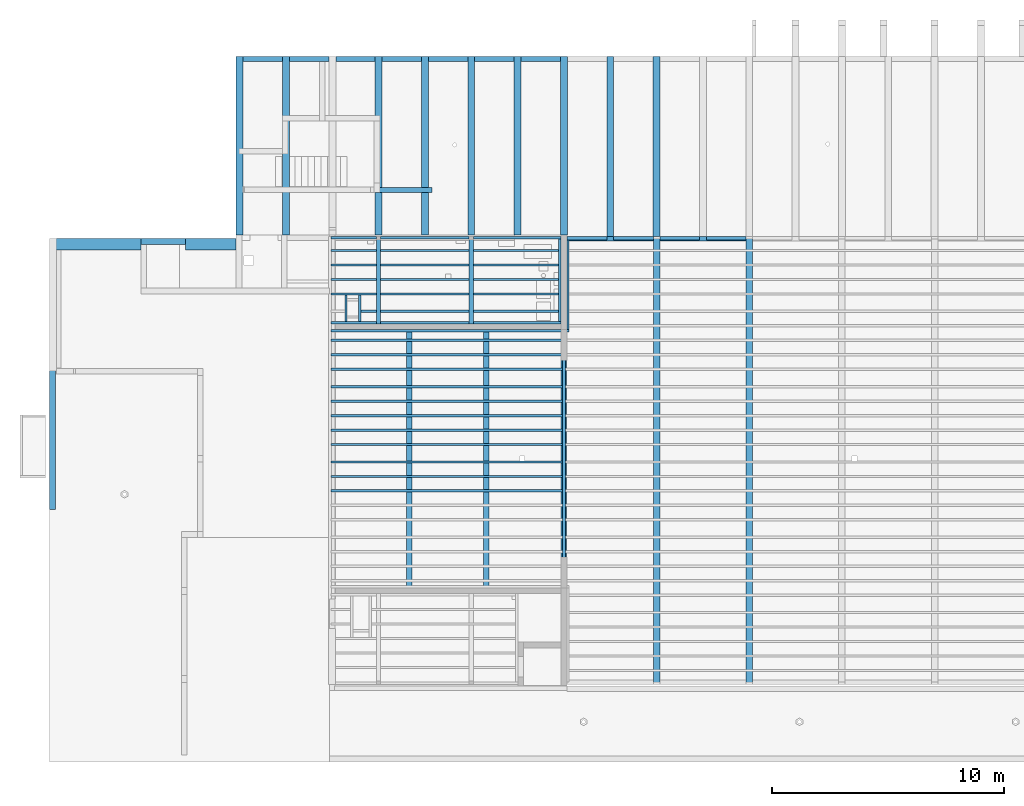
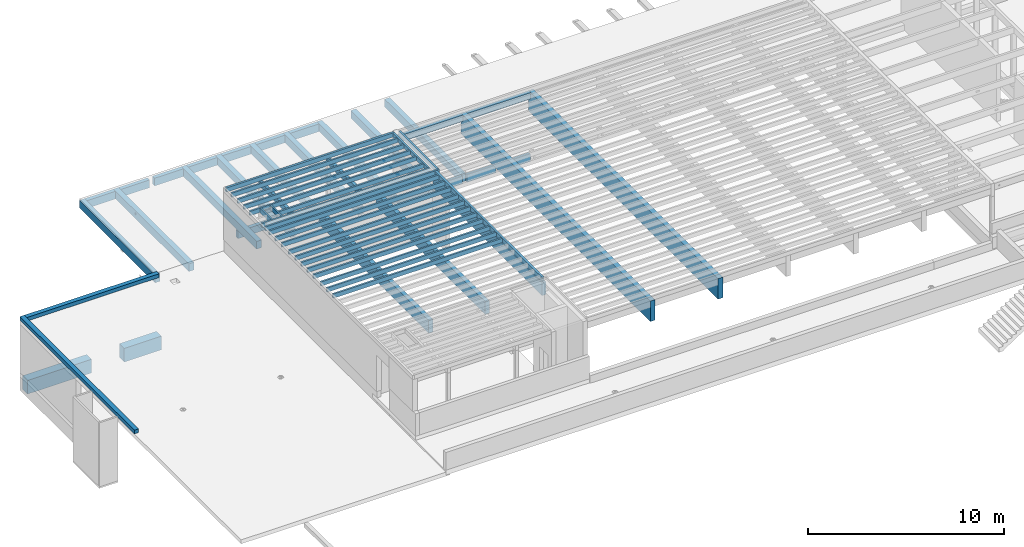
# One storey, part 2 of 14: 58 beams.
"""IFC2X3 building model written with IfcOpenShell, lengths in metres."""

import ifcopenshell
import ifcopenshell.guid

model = None  # the IFC model being written
_history = None  # IfcOwnerHistory: only IFC2X3 demands one
_inside = {}  # id of a spatial element -> (the spatial element, [elements in it])
_under = {}  # id of a project, library or spatial element -> (it, [spatial elements below it])
_declared = {}  # id of a project -> (the project, [libraries it declares])
_typed = {}  # id of a type object -> (the type object, [elements of that type])
_made_of = {}  # id of a material, layer set ... -> (it, [elements and type objects made of it])


def new_model(schema):
    """Start an empty IFC model of exactly this schema.

    Asked for "IFC4X3", IfcOpenShell would pick the latest addendum, in which some entities
    have other attributes; the version numbers below select the first issue.
    IFC2X3 requires an IfcOwnerHistory on every rooted entity: one is made here for all.
    """
    global model, _history
    if schema == "IFC4X3":
        model = ifcopenshell.file(schema_version=(4, 3, 0, 0))
    else:
        model = ifcopenshell.file(schema=schema)
    _inside.clear()
    _under.clear()
    _declared.clear()
    _typed.clear()
    _made_of.clear()
    _history = None
    if model.schema == "IFC2X3":
        org = make("IfcOrganization", Name="unknown")
        user = make(
            "IfcPersonAndOrganization",
            ThePerson=make("IfcPerson", FamilyName="unknown"),
            TheOrganization=org,
        )
        app = make(
            "IfcApplication",
            ApplicationDeveloper=org,
            Version="unknown",
            ApplicationFullName="unknown",
            ApplicationIdentifier="unknown",
        )
        _history = make(
            "IfcOwnerHistory",
            OwningUser=user,
            OwningApplication=app,
            ChangeAction="ADDED",
            CreationDate=0,
        )
    return model


def make(cls, **values):
    """One entity of the class cls with the attributes given. An attribute that is None is left unset."""
    return model.create_entity(
        cls, **{name: value for name, value in values.items() if value is not None}
    )


def entity(cls, *values):
    """Any entity or typed value of the class cls, its attributes in the order of the schema. None: left unset."""
    e = model.create_entity(cls)
    for i, value in enumerate(values):
        if value is not None:
            e[i] = value
    return e


def rooted(cls, **values):
    """An entity with a GlobalId (a new one), such as an element, a storey or a relation."""
    return make(cls, GlobalId=ifcopenshell.guid.new(), OwnerHistory=_history, **values)


def si_unit(unit_type, name, prefix=None):
    """IfcSIUnit, for example si_unit("LENGTHUNIT", "METRE", prefix="MILLI")."""
    return make("IfcSIUnit", UnitType=unit_type, Prefix=prefix, Name=name)


def converted_unit(unit_type, name, factor, base, dimensions=None, offset=None):
    """IfcConversionBasedUnit, such as the inch: factor (a typed value) times the base unit."""
    return make(
        "IfcConversionBasedUnit"
        if offset is None
        else "IfcConversionBasedUnitWithOffset",
        ConversionOffset=offset,
        Dimensions=None
        if dimensions is None
        else entity("IfcDimensionalExponents", *dimensions),
        UnitType=unit_type,
        Name=name,
        ConversionFactor=make(
            "IfcMeasureWithUnit", ValueComponent=factor, UnitComponent=base
        ),
    )


def assignment(units):
    """IfcUnitAssignment: the units of a project."""
    return None if units is None else make("IfcUnitAssignment", Units=units)


def point(xyz):
    """IfcCartesianPoint."""
    return None if xyz is None else make("IfcCartesianPoint", Coordinates=xyz)


def direction(xyz):
    """IfcDirection."""
    return None if xyz is None else make("IfcDirection", DirectionRatios=xyz)


def frame(location, z_axis=None, x_axis=None):
    """IfcAxis2Placement3D, a coordinate frame: its origin and axes. An axis left out is left unset."""
    return make(
        "IfcAxis2Placement3D",
        Location=point(location),
        Axis=direction(z_axis),
        RefDirection=direction(x_axis),
    )


def frame_2d(location, x_axis=None):
    """IfcAxis2Placement2D, a coordinate frame in the plane: its origin and x axis."""
    return make(
        "IfcAxis2Placement2D", Location=point(location), RefDirection=direction(x_axis)
    )


def origin():
    """The frame at (0, 0, 0) with its axes left unset."""
    return frame((0.0, 0.0, 0.0))


def origin_2d_with_axis():
    """The frame at (0, 0) in the plane with the x axis (1, 0) written out."""
    return frame_2d((0.0, 0.0), x_axis=(1.0, 0.0))


def place(relative_to, where):
    """IfcLocalPlacement: puts the frame where relative to a parent placement (None: the world)."""
    return make(
        "IfcLocalPlacement", PlacementRelTo=relative_to, RelativePlacement=where
    )


def context(
    kind, dimensions, precision=None, world=None, true_north=None, identifier=None
):
    """IfcGeometricRepresentationContext, for example the 3D "Model" context."""
    return make(
        "IfcGeometricRepresentationContext",
        ContextIdentifier=identifier,
        ContextType=kind,
        CoordinateSpaceDimension=dimensions,
        Precision=precision,
        WorldCoordinateSystem=world,
        TrueNorth=true_north,
    )


def subcontext(parent, identifier, kind, view, scale=None):
    """IfcGeometricRepresentationSubContext, for example "Body" below "Model"."""
    return make(
        "IfcGeometricRepresentationSubContext",
        ContextIdentifier=identifier,
        ContextType=kind,
        ParentContext=parent,
        TargetScale=scale,
        TargetView=view,
    )


def project(units=None, contexts=None):
    """IfcProject with its units and contexts."""
    return rooted(
        "IfcProject",
        Name="project",
        RepresentationContexts=contexts,
        UnitsInContext=assignment(units),
    )


def spatial(cls, under=None, at=None, **own):
    """A site, building, storey or space (cls), placed at a placement, below another one or the project."""
    s = rooted(cls, ObjectPlacement=at, **own)
    if under is not None:
        _under.setdefault(under.id(), (under, []))[1].append(s)
    return s


def profile(cls, at=None, kind="AREA", **sizes):
    """A parametric profile (cls). Its sizes go by their IFC names, for example OverallWidth=200.0."""
    return make(cls, ProfileType=kind, Position=at, **sizes)


def rectangle(**sizes):
    """IfcRectangleProfileDef."""
    return profile("IfcRectangleProfileDef", **sizes)


def circle(**sizes):
    """IfcCircleProfileDef."""
    return profile("IfcCircleProfileDef", **sizes)


def extrude(swept, where, along, depth):
    """IfcExtrudedAreaSolid: the profile swept, set in the frame where, extruded along a direction by depth."""
    return make(
        "IfcExtrudedAreaSolid",
        SweptArea=swept,
        Position=where,
        ExtrudedDirection=direction(along),
        Depth=depth,
    )


def boolean(op, a, b):
    """IfcBooleanResult of two solids."""
    return make("IfcBooleanResult", Operator=op, FirstOperand=a, SecondOperand=b)


def shape(context_of_items, identifier, shape_type, items):
    """IfcShapeRepresentation: the items that make up one representation, for example the "Body"."""
    return make(
        "IfcShapeRepresentation",
        ContextOfItems=context_of_items,
        RepresentationIdentifier=identifier,
        RepresentationType=shape_type,
        Items=items,
    )


def material(Name=None, Category=None):
    """IfcMaterial."""
    return make("IfcMaterial", Name=Name, Category=Category)


def made_of(thing, what):
    """Note that an element or type object is made of a material, layer set ...; save() writes the relation."""
    if what is not None:
        _made_of.setdefault(what.id(), (what, []))[1].append(thing)
    return thing


def type_object(cls, material=None, **own):
    """A type object (cls), such as IfcWallType, which elements share."""
    return made_of(rooted(cls, **own), material)


def element(
    cls,
    number,
    at=None,
    inside=None,
    cuts=None,
    type_object=None,
    material=None,
    context=None,
    identifier="Body",
    shape_type=None,
    held_by="IfcProductDefinitionShape",
    body=None,
    shapes=None,
    **own,
):
    """One element of the class cls, such as IfcWall. Its Tag is "e" and its number.

    at: its placement. inside: the storey or other place that contains it. cuts: it is an
    opening in that element (IfcRelVoidsElement). A single representation is given by context,
    identifier, shape_type and body (its items); several are given by shapes. held_by: the class
    of the entity that holds the representations. save() writes the other relations.
    """
    e = rooted(cls, Tag="e%d" % number, ObjectPlacement=at, **own)
    if body is not None:
        shapes = [shape(context, identifier, shape_type, body)]
    if shapes is not None:
        e.Representation = make(held_by, Representations=shapes)
    if inside is not None:
        _inside.setdefault(inside.id(), (inside, []))[1].append(e)
    if cuts is not None:
        rooted(
            "IfcRelVoidsElement", RelatingBuildingElement=cuts, RelatedOpeningElement=e
        )
    if type_object is not None:
        _typed.setdefault(type_object.id(), (type_object, []))[1].append(e)
    return made_of(e, material)


def aggregate(whole, parts):
    """IfcRelAggregates: a whole, such as a stair, and the parts it consists of."""
    return rooted("IfcRelAggregates", RelatingObject=whole, RelatedObjects=parts)


def save(model, path):
    """Write the relations noted so far, then the file.

    IfcRelAggregates (storeys below a building ...), IfcRelContainedInSpatialStructure (elements
    in a storey), IfcRelDefinesByType, IfcRelAssociatesMaterial and IfcRelDeclares: one each for
    every whole, place, type object, material and project.
    """
    for whole, parts in _under.values():
        aggregate(whole, parts)
    for where, things in _inside.values():
        rooted(
            "IfcRelContainedInSpatialStructure",
            RelatedElements=things,
            RelatingStructure=where,
        )
    for kind, things in _typed.values():
        rooted("IfcRelDefinesByType", RelatedObjects=things, RelatingType=kind)
    for what, things in _made_of.values():
        rooted("IfcRelAssociatesMaterial", RelatedObjects=things, RelatingMaterial=what)
    for by, libraries in _declared.values():
        rooted("IfcRelDeclares", RelatingContext=by, RelatedDefinitions=libraries)
    model.write(path)


model = new_model("IFC2X3")

# Units and contexts
model_context = context("Model", 3, precision=1e-05, world=frame((30.086303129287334, 2.687674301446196, 462.0)), true_north=direction((0.19008937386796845, 0.9817667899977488)))
body_context = subcontext(model_context, "Body", "Model", "MODEL_VIEW")
ifc_project = project(units=[si_unit("LENGTHUNIT", "METRE"), si_unit("AREAUNIT", "SQUARE_METRE"), converted_unit("PLANEANGLEUNIT", "DEGREE", entity("IfcPlaneAngleMeasure", 0.017453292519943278), si_unit("PLANEANGLEUNIT", "RADIAN"), dimensions=[0, 0, 0, 0, 0, 0, 0]), si_unit("VOLUMEUNIT", "CUBIC_METRE")], contexts=[model_context])

# Site, building, storey
site_placement = place(None, origin())
site = spatial("IfcSite", under=ifc_project, at=site_placement, Name="Default", CompositionType="ELEMENT")
building_placement = place(site_placement, origin())
building = spatial("IfcBuilding", under=site, at=building_placement, CompositionType="ELEMENT")
storey_placement = place(building_placement, origin())
storey = spatial("IfcBuildingStorey", under=building, at=storey_placement, Name="FB_E00_OKFB", CompositionType="ELEMENT", Elevation=0.0)

# Beams
ifc_material_1 = material(Name="WS_CONCRETE_REINFORCED")
beam_type_1 = type_object("IfcBeamType", Name="WS_FDN_REC:FDN_REC_500x1100", PredefinedType="BEAM")
beam_1_placement = place(storey_placement, frame((38.05533792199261, -1.5796477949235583, 0.7799999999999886)))
element("IfcBeam", 1, at=beam_1_placement, inside=storey, type_object=beam_type_1, material=ifc_material_1, Name="WS_FDN_REC:FDN_REC_500x1100", ObjectType="WS_FDN_REC:FDN_REC_500x1100", context=body_context, shape_type="SweptSolid", body=[
    extrude(rectangle(XDim=0.8500000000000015, YDim=0.5000000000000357, at=frame_2d((0.0, 8.382183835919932e-15), x_axis=(1.0, 0.0))), frame((0.0, 0.0, -0.6750000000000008), z_axis=(1.0, 0.0, 0.0), x_axis=(0.0, 0.0, -1.0)), (0.0, 0.0, 1.0), 3.784995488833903),
])
beam_2_placement = place(storey_placement, frame((43.6403329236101, -1.5796477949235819, 0.7799999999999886)))
element("IfcBeam", 2, at=beam_2_placement, inside=storey, type_object=beam_type_1, material=ifc_material_1, Name="WS_FDN_REC:FDN_REC_500x1100", ObjectType="WS_FDN_REC:FDN_REC_500x1100", context=body_context, shape_type="SweptSolid", body=[
    extrude(rectangle(XDim=0.8500000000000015, YDim=0.5000000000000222, at=frame_2d((0.0, 4.85722573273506e-15), x_axis=(1.0, 0.0))), frame((0.12499999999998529, 0.0, -0.6750000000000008), z_axis=(1.0, 0.0, 0.0), x_axis=(0.0, 0.0, -1.0)), (0.0, 0.0, 1.0), 2.190006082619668),
])
ifc_material_2 = material(Name="WS_TIMBER_GLT_0°")
beam_type_2 = type_object("IfcBeamType", Name="WS_TBM_GLT:TBM_GLT_280/1280", PredefinedType="BEAM")
beam_3_placement = place(storey_placement, frame((68.10533919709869, -1.334602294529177, 7.779999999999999), z_axis=(0.0, 0.0, 1.0), x_axis=(0.0, -1.0, 0.0)))
element("IfcBeam", 3, at=beam_3_placement, inside=storey, type_object=beam_type_2, material=ifc_material_2, Name="WS_TBM_GLT:TBM_GLT_280/1280", ObjectType="WS_TBM_GLT:TBM_GLT_280/1280", context=body_context, shape_type="SweptSolid", body=[
    extrude(rectangle(XDim=1.2800000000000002, YDim=0.279999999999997, at=frame_2d((-5.551115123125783e-16, 4.3298697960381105e-15), x_axis=(1.0, 0.0))), frame((-0.09999999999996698, 0.0, -0.6400000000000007), z_axis=(1.0, 0.0, 0.0), x_axis=(0.0, 0.0, -1.0)), (0.0, 0.0, 1.0), 19.35004967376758),
])
beam_4_placement = place(storey_placement, frame((64.10533919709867, -1.334602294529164, 7.780000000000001), z_axis=(0.0, 0.0, 1.0), x_axis=(0.0, -1.0, 0.0)))
element("IfcBeam", 4, at=beam_4_placement, inside=storey, type_object=beam_type_2, material=ifc_material_2, Name="WS_TBM_GLT:TBM_GLT_280/1280", ObjectType="WS_TBM_GLT:TBM_GLT_280/1280", context=body_context, shape_type="SweptSolid", body=[
    extrude(rectangle(XDim=1.2800000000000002, YDim=0.279999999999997, at=frame_2d((5.551115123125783e-16, -4.3298697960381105e-15), x_axis=(1.0, 0.0))), frame((-0.09999999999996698, 0.0, -0.6399999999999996), z_axis=(1.0, 0.0, 0.0), x_axis=(0.0, 0.0, -1.0)), (0.0, 0.0, 1.0), 19.35004967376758),
])
beam_type_3 = type_object("IfcBeamType", Name="WS_TBM_GLT:TBM_GLT_240/800", PredefinedType="BEAM")
beam_5_placement = place(storey_placement, frame((56.76033735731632, -5.134648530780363, 7.779999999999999), z_axis=(0.0, 0.0, 1.0), x_axis=(0.0, -1.0, 0.0)))
element("IfcBeam", 5, at=beam_5_placement, inside=storey, type_object=beam_type_3, material=ifc_material_2, Name="WS_TBM_GLT:TBM_GLT_240/800", ObjectType="WS_TBM_GLT:TBM_GLT_240/800", context=body_context, shape_type="SweptSolid", body=[
    extrude(rectangle(XDim=0.8, YDim=0.2399999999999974, at=origin_2d_with_axis()), frame((0.12499990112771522, 0.0, -0.4), z_axis=(1.0, 0.0, 0.0), x_axis=(0.0, 0.0, -1.0)), (0.0, 0.0, 1.0), 11.150000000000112),
])
beam_6_placement = place(storey_placement, frame((53.424917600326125, -5.134648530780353, 7.779999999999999), z_axis=(0.0, 0.0, 1.0), x_axis=(0.0, -1.0, 0.0)))
element("IfcBeam", 6, at=beam_6_placement, inside=storey, type_object=beam_type_3, material=ifc_material_2, Name="WS_TBM_GLT:TBM_GLT_240/800", ObjectType="WS_TBM_GLT:TBM_GLT_240/800", context=body_context, shape_type="SweptSolid", body=[
    extrude(rectangle(XDim=0.8, YDim=0.2399999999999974, at=origin_2d_with_axis()), frame((0.12499999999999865, 0.0, -0.4), z_axis=(1.0, 0.0, 0.0), x_axis=(0.0, 0.0, -1.0)), (0.0, 0.0, 1.0), 11.149999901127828),
])
beam_7_placement = place(storey_placement, frame((60.105337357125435, -5.134648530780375, 7.779999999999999), z_axis=(0.0, 0.0, 1.0), x_axis=(0.0, -1.0, 0.0)))
element("IfcBeam", 7, at=beam_7_placement, inside=storey, type_object=beam_type_3, material=ifc_material_2, Name="WS_TBM_GLT:TBM_GLT_240/800", ObjectType="WS_TBM_GLT:TBM_GLT_240/800", context=body_context, shape_type="SweptSolid", body=[
    extrude(rectangle(XDim=0.8, YDim=0.2399999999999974, at=origin_2d_with_axis()), frame((0.12499999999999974, 0.0, -0.4), z_axis=(1.0, 0.0, 0.0), x_axis=(0.0, 0.0, -1.0)), (0.0, 0.0, 1.0), 11.149999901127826),
])
beam_type_4 = type_object("IfcBeamType", Name="WS_TBM_GLT:TBM_GLT_180/320", PredefinedType="BEAM")
beam_8_placement = place(storey_placement, frame((56.10533735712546, -1.3146022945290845, 7.779999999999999), z_axis=(0.0, 0.0, 1.0), x_axis=(0.0, -1.0, 0.0)))
element("IfcBeam", 8, at=beam_8_placement, inside=storey, type_object=beam_type_4, material=ifc_material_2, Name="WS_TBM_GLT:TBM_GLT_180/320", ObjectType="WS_TBM_GLT:TBM_GLT_180/320", context=body_context, shape_type="SweptSolid", body=[
    extrude(rectangle(XDim=0.31999999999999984, YDim=0.18000000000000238, at=frame_2d((5.412337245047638e-16, 4.336808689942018e-15), x_axis=(1.0, 0.0))), frame((-0.08000000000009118, 0.0, -0.15999999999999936), z_axis=(1.0, 0.0, 0.0), x_axis=(0.0, 0.0, -1.0)), (0.0, 0.0, 1.0), 3.7750462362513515),
])
beam_9_placement = place(storey_placement, frame((52.105337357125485, -1.3146022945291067, 7.779999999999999), z_axis=(0.0, 0.0, 1.0), x_axis=(0.0, -1.0, 0.0)))
element("IfcBeam", 9, at=beam_9_placement, inside=storey, type_object=beam_type_4, material=ifc_material_2, Name="WS_TBM_GLT:TBM_GLT_180/320", ObjectType="WS_TBM_GLT:TBM_GLT_180/320", context=body_context, shape_type="SweptSolid", body=[
    extrude(rectangle(XDim=0.31999999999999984, YDim=0.18000000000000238, at=frame_2d((5.412337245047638e-16, -4.336808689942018e-15), x_axis=(1.0, 0.0))), frame((-0.08000000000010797, 0.0, -0.15999999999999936), z_axis=(1.0, 0.0, 0.0), x_axis=(0.0, 0.0, -1.0)), (0.0, 0.0, 1.0), 3.7750462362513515),
])
beam_type_5 = type_object("IfcBeamType", Name="WS_TBM_GLT:TBM_GLT_300/480", PredefinedType="BEAM")
beam_10_placement = place(storey_placement, frame((64.10533735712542, 6.420351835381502, 3.935), z_axis=(0.0, 0.0, 1.0), x_axis=(0.0, -1.0, 0.0)))
element("IfcBeam", 10, at=beam_10_placement, inside=storey, type_object=beam_type_5, material=ifc_material_2, Name="WS_TBM_GLT:TBM_GLT_300/480", ObjectType="WS_TBM_GLT:TBM_GLT_300/480", context=body_context, shape_type="SweptSolid", body=[
    extrude(rectangle(XDim=0.4799999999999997, YDim=0.3000000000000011, at=frame_2d((2.7755575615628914e-16, 0.0), x_axis=(1.0, 0.0))), frame((-0.10999999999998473, 0.0, -0.23999999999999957), z_axis=(1.0, 0.0, 0.0), x_axis=(0.0, 0.0, -1.0)), (0.0, 0.0, 1.0), 7.764954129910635),
])
beam_11_placement = place(storey_placement, frame((62.105338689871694, 6.420351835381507, 3.935), z_axis=(0.0, 0.0, 1.0), x_axis=(0.0, -1.0, 0.0)))
element("IfcBeam", 11, at=beam_11_placement, inside=storey, type_object=beam_type_5, material=ifc_material_2, Name="WS_TBM_GLT:TBM_GLT_300/480", ObjectType="WS_TBM_GLT:TBM_GLT_300/480", context=body_context, shape_type="SweptSolid", body=[
    extrude(rectangle(XDim=0.4799999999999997, YDim=0.3000000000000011, at=frame_2d((2.7755575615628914e-16, 0.0), x_axis=(1.0, 0.0))), frame((-0.10999999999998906, 0.0, -0.23999999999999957), z_axis=(1.0, 0.0, 0.0), x_axis=(0.0, 0.0, -1.0)), (0.0, 0.0, 1.0), 7.9249541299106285),
])
beam_12_placement = place(storey_placement, frame((60.10533735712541, 6.4203518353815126, 3.935), z_axis=(0.0, 0.0, 1.0), x_axis=(0.0, -1.0, 0.0)))
element("IfcBeam", 12, at=beam_12_placement, inside=storey, type_object=beam_type_5, material=ifc_material_2, Name="WS_TBM_GLT:TBM_GLT_300/480", ObjectType="WS_TBM_GLT:TBM_GLT_300/480", context=body_context, shape_type="SweptSolid", body=[
    extrude(rectangle(XDim=0.4799999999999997, YDim=0.3000000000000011, at=frame_2d((2.7755575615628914e-16, 0.0), x_axis=(1.0, 0.0))), frame((-0.10999999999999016, 0.0, -0.23999999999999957), z_axis=(1.0, 0.0, 0.0), x_axis=(0.0, 0.0, -1.0)), (0.0, 0.0, 1.0), 7.699999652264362),
])
for number, where, z_axis, x_axis in (
    (13, (58.10533946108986, 6.420351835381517, 3.935), (0.0, 0.0, 1.0), (0.0, -1.0, 0.0)),
    (14, (56.1053373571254, 6.420351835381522, 3.935), (0.0, 0.0, 1.0), (0.0, -1.0, 0.0)),
    (15, (54.10533983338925, 6.420351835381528, 3.935), (0.0, 0.0, 1.0), (0.0, -1.0, 0.0)),
):
    element("IfcBeam", number, at=place(storey_placement, frame(where, z_axis=z_axis, x_axis=x_axis)), inside=storey, type_object=beam_type_5, material=ifc_material_2, Name="WS_TBM_GLT:TBM_GLT_300/480", ObjectType="WS_TBM_GLT:TBM_GLT_300/480", context=body_context, shape_type="SweptSolid", body=[
        extrude(rectangle(XDim=0.4799999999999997, YDim=0.3000000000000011, at=frame_2d((2.7755575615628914e-16, 0.0), x_axis=(1.0, 0.0))), frame((-0.10999999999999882, 0.0, -0.23999999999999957), z_axis=(1.0, 0.0, 0.0), x_axis=(0.0, 0.0, -1.0)), (0.0, 0.0, 1.0), 7.699999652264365),
    ])
beam_13_placement = place(storey_placement, frame((52.10533735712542, 6.420351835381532, 3.935), z_axis=(0.0, 0.0, 1.0), x_axis=(0.0, -1.0, 0.0)))
element("IfcBeam", 16, at=beam_13_placement, inside=storey, type_object=beam_type_5, material=ifc_material_2, Name="WS_TBM_GLT:TBM_GLT_300/480", ObjectType="WS_TBM_GLT:TBM_GLT_300/480", context=body_context, shape_type="SweptSolid", body=[
    extrude(rectangle(XDim=0.4799999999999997, YDim=0.3000000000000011, at=frame_2d((2.7755575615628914e-16, 0.0), x_axis=(1.0, 0.0))), frame((-0.11000000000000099, 0.0, -0.23999999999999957), z_axis=(1.0, 0.0, 0.0), x_axis=(0.0, 0.0, -1.0)), (0.0, 0.0, 1.0), 7.699999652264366),
])
beam_14_placement = place(storey_placement, frame((48.10534039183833, 6.420351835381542, 3.935), z_axis=(0.0, 0.0, 1.0), x_axis=(0.0, -1.0, 0.0)))
element("IfcBeam", 17, at=beam_14_placement, inside=storey, type_object=beam_type_5, material=ifc_material_2, Name="WS_TBM_GLT:TBM_GLT_300/480", ObjectType="WS_TBM_GLT:TBM_GLT_300/480", context=body_context, shape_type="SweptSolid", body=[
    boolean("DIFFERENCE", extrude(rectangle(XDim=0.4799999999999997, YDim=0.3000000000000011, at=frame_2d((0.0, 5.412337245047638e-16), x_axis=(0.0, 1.0))), frame((-0.10999999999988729, 0.0, -0.24000000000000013), z_axis=(1.0, 0.0, 0.0), x_axis=(0.0, 1.0, 0.0)), (0.0, 0.0, 1.0), 7.6999996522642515), extrude(circle(Radius=0.059999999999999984, at=frame_2d((0.0, -3.573461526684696e-14), x_axis=(1.0, 0.0))), frame((2.1349999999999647, 0.15000000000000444, -0.17499999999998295), z_axis=(0.0, -1.0, 0.0), x_axis=(1.0, 0.0, 0.0)), (0.0, 0.0, 1.0), 0.3000000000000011)),
])
beam_15_placement = place(storey_placement, frame((46.105339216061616, 6.420351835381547, 3.935), z_axis=(0.0, 0.0, 1.0), x_axis=(0.0, -1.0, 0.0)))
element("IfcBeam", 18, at=beam_15_placement, inside=storey, type_object=beam_type_5, material=ifc_material_2, Name="WS_TBM_GLT:TBM_GLT_300/480", ObjectType="WS_TBM_GLT:TBM_GLT_300/480", context=body_context, shape_type="SweptSolid", body=[
    extrude(rectangle(XDim=0.4799999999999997, YDim=0.3000000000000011, at=frame_2d((2.7755575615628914e-16, 0.0), x_axis=(1.0, 0.0))), frame((-0.11000000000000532, 0.0, -0.23999999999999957), z_axis=(1.0, 0.0, 0.0), x_axis=(0.0, 0.0, -1.0)), (0.0, 0.0, 1.0), 7.699999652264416),
])
beam_type_6 = type_object("IfcBeamType", Name="WS_TBM_GLT:TBM_GLT_220/480", PredefinedType="BEAM")
beam_16_placement = place(storey_placement, frame((46.10533921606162, 6.420351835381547, 3.935)))
element("IfcBeam", 19, at=beam_16_placement, inside=storey, type_object=beam_type_6, material=ifc_material_2, Name="WS_TBM_GLT:TBM_GLT_220/480", ObjectType="WS_TBM_GLT:TBM_GLT_220/480", context=body_context, shape_type="SweptSolid", body=[
    extrude(rectangle(XDim=0.47999999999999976, YDim=0.2199999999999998, at=frame_2d((2.636779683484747e-16, 4.3298697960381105e-15), x_axis=(1.0, 0.0))), frame((0.14999999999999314, 0.0, -0.23999999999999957), z_axis=(1.0, 0.0, 0.0), x_axis=(0.0, 0.0, -1.0)), (0.0, 0.0, 1.0), 1.7000011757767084),
])
beam_17_placement = place(storey_placement, frame((48.10534039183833, 6.420351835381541, 3.935)))
element("IfcBeam", 20, at=beam_17_placement, inside=storey, type_object=beam_type_6, material=ifc_material_2, Name="WS_TBM_GLT:TBM_GLT_220/480", ObjectType="WS_TBM_GLT:TBM_GLT_220/480", context=body_context, shape_type="SweptSolid", body=[
    extrude(rectangle(XDim=0.47999999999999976, YDim=0.2199999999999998, at=frame_2d((2.636779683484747e-16, 4.3298697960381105e-15), x_axis=(1.0, 0.0))), frame((0.1500000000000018, 0.0, -0.23999999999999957), z_axis=(1.0, 0.0, 0.0), x_axis=(0.0, 0.0, -1.0)), (0.0, 0.0, 1.0), 1.6999969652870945),
])
beam_18_placement = place(storey_placement, frame((50.10533735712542, 6.420351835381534, 3.935)))
element("IfcBeam", 21, at=beam_18_placement, inside=storey, type_object=beam_type_6, material=ifc_material_2, Name="WS_TBM_GLT:TBM_GLT_220/480", ObjectType="WS_TBM_GLT:TBM_GLT_220/480", context=body_context, shape_type="SweptSolid", body=[
    extrude(rectangle(XDim=0.47999999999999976, YDim=0.2199999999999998, at=frame_2d((2.636779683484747e-16, 4.3298697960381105e-15), x_axis=(1.0, 0.0))), frame((0.1500000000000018, 0.0, -0.23999999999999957), z_axis=(1.0, 0.0, 0.0), x_axis=(0.0, 0.0, -1.0)), (0.0, 0.0, 1.0), 1.700000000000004),
])
beam_19_placement = place(storey_placement, frame((52.10533735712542, 6.420351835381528, 3.935)))
element("IfcBeam", 22, at=beam_19_placement, inside=storey, type_object=beam_type_6, material=ifc_material_2, Name="WS_TBM_GLT:TBM_GLT_220/480", ObjectType="WS_TBM_GLT:TBM_GLT_220/480", context=body_context, shape_type="SweptSolid", body=[
    extrude(rectangle(XDim=0.47999999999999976, YDim=0.2199999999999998, at=frame_2d((2.636779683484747e-16, 4.3298697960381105e-15), x_axis=(1.0, 0.0))), frame((0.15000000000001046, 0.0, -0.23999999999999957), z_axis=(1.0, 0.0, 0.0), x_axis=(0.0, 0.0, -1.0)), (0.0, 0.0, 1.0), 1.7000024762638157),
])
beam_20_placement = place(storey_placement, frame((54.10533983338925, 6.420351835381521, 3.935)))
element("IfcBeam", 23, at=beam_20_placement, inside=storey, type_object=beam_type_6, material=ifc_material_2, Name="WS_TBM_GLT:TBM_GLT_220/480", ObjectType="WS_TBM_GLT:TBM_GLT_220/480", context=body_context, shape_type="SweptSolid", body=[
    extrude(rectangle(XDim=0.47999999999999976, YDim=0.2199999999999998, at=frame_2d((2.636779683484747e-16, 4.3298697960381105e-15), x_axis=(1.0, 0.0))), frame((0.1500000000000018, 0.0, -0.23999999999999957), z_axis=(1.0, 0.0, 0.0), x_axis=(0.0, 0.0, -1.0)), (0.0, 0.0, 1.0), 1.6999975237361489),
])
beam_21_placement = place(storey_placement, frame((56.1053373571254, 6.420351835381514, 3.935)))
element("IfcBeam", 24, at=beam_21_placement, inside=storey, type_object=beam_type_6, material=ifc_material_2, Name="WS_TBM_GLT:TBM_GLT_220/480", ObjectType="WS_TBM_GLT:TBM_GLT_220/480", context=body_context, shape_type="SweptSolid", body=[
    extrude(rectangle(XDim=0.47999999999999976, YDim=0.2199999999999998, at=frame_2d((2.636779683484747e-16, 4.3298697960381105e-15), x_axis=(1.0, 0.0))), frame((0.15000000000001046, 0.0, -0.23999999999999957), z_axis=(1.0, 0.0, 0.0), x_axis=(0.0, 0.0, -1.0)), (0.0, 0.0, 1.0), 1.7000021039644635),
])
beam_22_placement = place(storey_placement, frame((58.10533946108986, 6.420351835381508, 3.935)))
element("IfcBeam", 25, at=beam_22_placement, inside=storey, type_object=beam_type_6, material=ifc_material_2, Name="WS_TBM_GLT:TBM_GLT_220/480", ObjectType="WS_TBM_GLT:TBM_GLT_220/480", context=body_context, shape_type="SweptSolid", body=[
    extrude(rectangle(XDim=0.47999999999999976, YDim=0.2199999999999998, at=frame_2d((2.636779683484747e-16, 4.3298697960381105e-15), x_axis=(1.0, 0.0))), frame((0.1500000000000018, 0.0, -0.23999999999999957), z_axis=(1.0, 0.0, 0.0), x_axis=(0.0, 0.0, -1.0)), (0.0, 0.0, 1.0), 1.6999978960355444),
])
beam_type_7 = type_object("IfcBeamType", Name="WS_TBM_GLT:TBM_GLT_160/480", PredefinedType="BEAM")
beam_23_placement = place(storey_placement, frame((64.10533735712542, -1.3146022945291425, 3.935)))
element("IfcBeam", 26, at=beam_23_placement, inside=storey, type_object=beam_type_7, material=ifc_material_2, Name="WS_TBM_GLT:TBM_GLT_160/480", ObjectType="WS_TBM_GLT:TBM_GLT_160/480", context=body_context, shape_type="SweptSolid", body=[
    extrude(rectangle(XDim=0.4799999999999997, YDim=0.15999999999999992, at=frame_2d((2.7755575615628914e-16, 4.3298697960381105e-15), x_axis=(1.0, 0.0))), frame((0.13999999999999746, 0.0, -0.23999999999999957), z_axis=(1.0, 0.0, 0.0), x_axis=(0.0, 0.0, -1.0)), (0.0, 0.0, 1.0), 1.7100013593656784),
])
beam_24_placement = place(storey_placement, frame((66.10533871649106, -1.3146022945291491, 3.935)))
element("IfcBeam", 27, at=beam_24_placement, inside=storey, type_object=beam_type_7, material=ifc_material_2, Name="WS_TBM_GLT:TBM_GLT_160/480", ObjectType="WS_TBM_GLT:TBM_GLT_160/480", context=body_context, shape_type="SweptSolid", body=[
    extrude(rectangle(XDim=0.4799999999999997, YDim=0.15999999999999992, at=frame_2d((2.7755575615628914e-16, 4.3298697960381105e-15), x_axis=(1.0, 0.0))), frame((0.1500000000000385, 0.0, -0.23999999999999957), z_axis=(1.0, 0.0, 0.0), x_axis=(0.0, 0.0, -1.0)), (0.0, 0.0, 1.0), 1.709998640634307),
])
beam_25_placement = place(storey_placement, frame((60.1053373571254, -1.3146022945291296, 3.935)))
element("IfcBeam", 28, at=beam_25_placement, inside=storey, type_object=beam_type_7, material=ifc_material_2, Name="WS_TBM_GLT:TBM_GLT_160/480", ObjectType="WS_TBM_GLT:TBM_GLT_160/480", context=body_context, shape_type="SweptSolid", body=[
    extrude(rectangle(XDim=0.4799999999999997, YDim=0.15999999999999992, at=frame_2d((2.7755575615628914e-16, 4.3298697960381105e-15), x_axis=(1.0, 0.0))), frame((0.1250001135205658, 0.0, -0.23999999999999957), z_axis=(1.0, 0.0, 0.0), x_axis=(0.0, 0.0, -1.0)), (0.0, 0.0, 1.0), 1.7250012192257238),
])
beam_26_placement = place(storey_placement, frame((62.10533868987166, -1.314602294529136, 3.935)))
element("IfcBeam", 29, at=beam_26_placement, inside=storey, type_object=beam_type_7, material=ifc_material_2, Name="WS_TBM_GLT:TBM_GLT_160/480", ObjectType="WS_TBM_GLT:TBM_GLT_160/480", context=body_context, shape_type="SweptSolid", body=[
    extrude(rectangle(XDim=0.4799999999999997, YDim=0.15999999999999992, at=frame_2d((2.7755575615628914e-16, 4.3298697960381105e-15), x_axis=(1.0, 0.0))), frame((0.1500000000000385, 0.0, -0.23999999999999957), z_axis=(1.0, 0.0, 0.0), x_axis=(0.0, 0.0, -1.0)), (0.0, 0.0, 1.0), 1.7099986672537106),
])
beam_type_8 = type_object("IfcBeamType", Name="WS_TBM_GLT:TBM_GLT_220/440", PredefinedType="BEAM")
beam_27_placement = place(storey_placement, frame((54.41534097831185, 0.7603515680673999, 3.4549999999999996), z_axis=(0.0, 0.0, 1.0), x_axis=(-1.0, 0.0, 0.0)))
element("IfcBeam", 30, at=beam_27_placement, inside=storey, type_object=beam_type_8, material=ifc_material_2, Name="WS_TBM_GLT:TBM_GLT_220/440", ObjectType="WS_TBM_GLT:TBM_GLT_220/440", context=body_context, shape_type="SweptSolid", body=[
    extrude(rectangle(XDim=0.4399999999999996, YDim=0.22000000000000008, at=frame_2d((0.0, 6.626643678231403e-15), x_axis=(1.0, 0.0))), frame((0.0, 0.0, -0.2199999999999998), z_axis=(1.0, 0.0, 0.0), x_axis=(0.0, 0.0, -1.0)), (0.0, 0.0, 1.0), 2.500004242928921),
])
ifc_material_3 = material(Name="WS_TIMBER")
beam_type_9 = type_object("IfcBeamType", Name="WS_TBM_KVH:TBM_KVH_100/260", PredefinedType="BEAM")
beam_28_placement = place(storey_placement, frame((60.28033735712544, -5.309648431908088, 8.04), z_axis=(0.0, 0.0, 1.0), x_axis=(-1.0, 0.0, 0.0)))
element("IfcBeam", 31, at=beam_28_placement, inside=storey, type_object=beam_type_9, material=ifc_material_3, Name="WS_TBM_KVH:TBM_KVH_100/260", ObjectType="WS_TBM_KVH:TBM_KVH_100/260", context=body_context, shape_type="SweptSolid", body=[
    extrude(rectangle(XDim=0.26000000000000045, YDim=0.09999999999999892, at=frame_2d((5.412337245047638e-16, 3.357036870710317e-14), x_axis=(1.0, 0.0))), frame((-0.050000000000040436, 0.0, -0.1299999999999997), z_axis=(1.0, 0.0, 0.0), x_axis=(0.0, 0.0, -1.0)), (0.0, 0.0, 1.0), 10.270000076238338),
])
beam_29_placement = place(storey_placement, frame((60.28033735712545, -5.309648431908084, 8.04), z_axis=(0.0, 0.0, 1.0), x_axis=(0.0, 1.0, 0.0)))
element("IfcBeam", 32, at=beam_29_placement, inside=storey, type_object=beam_type_9, material=ifc_material_3, Name="WS_TBM_KVH:TBM_KVH_100/260", ObjectType="WS_TBM_KVH:TBM_KVH_100/260", context=body_context, shape_type="SweptSolid", body=[
    extrude(rectangle(XDim=0.26000000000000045, YDim=0.10000000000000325, at=frame_2d((5.412337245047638e-16, 0.0), x_axis=(1.0, 0.0))), frame((0.04999999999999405, 0.0, -0.1299999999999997), z_axis=(1.0, 0.0, 0.0), x_axis=(0.0, 0.0, -1.0)), (0.0, 0.0, 1.0), 3.9050461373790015),
])
beam_30_placement = place(storey_placement, frame((59.930337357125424, -5.134648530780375, 8.04), z_axis=(0.0, 0.0, 1.0), x_axis=(0.0, 1.0, 0.0)))
element("IfcBeam", 33, at=beam_30_placement, inside=storey, type_object=beam_type_9, material=ifc_material_3, Name="WS_TBM_KVH:TBM_KVH_100/260", ObjectType="WS_TBM_KVH:TBM_KVH_100/260", context=body_context, shape_type="SweptSolid", body=[
    extrude(rectangle(XDim=0.26000000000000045, YDim=0.10000000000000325, at=frame_2d((5.412337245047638e-16, -1.732641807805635e-14), x_axis=(1.0, 0.0))), frame((0.22499999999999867, 0.0, -0.1299999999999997), z_axis=(1.0, 0.0, 0.0), x_axis=(0.0, 0.0, -1.0)), (0.0, 0.0, 1.0), 3.5550462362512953),
])
beam_31_placement = place(storey_placement, frame((59.930337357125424, -4.9596484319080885, 8.04), z_axis=(0.0, 0.0, 1.0), x_axis=(-1.0, 0.0, 0.0)))
element("IfcBeam", 34, at=beam_31_placement, inside=storey, type_object=beam_type_9, material=ifc_material_3, Name="WS_TBM_KVH:TBM_KVH_100/260", ObjectType="WS_TBM_KVH:TBM_KVH_100/260", context=body_context, shape_type="SweptSolid", body=[
    extrude(rectangle(XDim=0.26000000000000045, YDim=0.09999999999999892, at=frame_2d((5.412337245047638e-16, 3.248443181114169e-14), x_axis=(1.0, 0.0))), frame((-0.0500000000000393, 0.0, -0.1299999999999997), z_axis=(1.0, 0.0, 0.0), x_axis=(0.0, 0.0, -1.0)), (0.0, 0.0, 1.0), 9.920000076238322),
])
beam_32_placement = place(storey_placement, frame((59.930337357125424, -4.472106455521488, 8.04), z_axis=(0.0, 0.0, 1.0), x_axis=(-1.0, 0.0, 0.0)))
element("IfcBeam", 35, at=beam_32_placement, inside=storey, type_object=beam_type_9, material=ifc_material_3, Name="WS_TBM_KVH:TBM_KVH_100/260", ObjectType="WS_TBM_KVH:TBM_KVH_100/260", context=body_context, shape_type="SweptSolid", body=[
    extrude(rectangle(XDim=0.26000000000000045, YDim=0.1, at=frame_2d((5.412337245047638e-16, 2.7613328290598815e-14), x_axis=(1.0, 0.0))), frame((0.05000000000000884, 0.0, -0.1299999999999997), z_axis=(1.0, 0.0, 0.0), x_axis=(0.0, 0.0, -1.0)), (0.0, 0.0, 1.0), 8.534999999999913),
])
beam_33_placement = place(storey_placement, frame((59.930337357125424, -3.7221064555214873, 8.04), z_axis=(0.0, 0.0, 1.0), x_axis=(-1.0, 0.0, 0.0)))
element("IfcBeam", 36, at=beam_33_placement, inside=storey, type_object=beam_type_9, material=ifc_material_3, Name="WS_TBM_KVH:TBM_KVH_100/260", ObjectType="WS_TBM_KVH:TBM_KVH_100/260", context=body_context, shape_type="SweptSolid", body=[
    extrude(rectangle(XDim=0.26000000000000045, YDim=0.09999999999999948, at=frame_2d((5.412337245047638e-16, 3.221381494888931e-14), x_axis=(1.0, 0.0))), frame((0.04999999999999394, 0.0, -0.1299999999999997), z_axis=(1.0, 0.0, 0.0), x_axis=(0.0, 0.0, -1.0)), (0.0, 0.0, 1.0), 9.820000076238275),
])
beam_34_placement = place(storey_placement, frame((59.930337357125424, -3.0971064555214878, 8.04), z_axis=(0.0, 0.0, 1.0), x_axis=(-1.0, 0.0, 0.0)))
element("IfcBeam", 37, at=beam_34_placement, inside=storey, type_object=beam_type_9, material=ifc_material_3, Name="WS_TBM_KVH:TBM_KVH_100/260", ObjectType="WS_TBM_KVH:TBM_KVH_100/260", context=body_context, shape_type="SweptSolid", body=[
    extrude(rectangle(XDim=0.26000000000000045, YDim=0.09999999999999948, at=frame_2d((5.412337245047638e-16, 3.221381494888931e-14), x_axis=(1.0, 0.0))), frame((0.04999999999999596, 0.0, -0.1299999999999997), z_axis=(1.0, 0.0, 0.0), x_axis=(0.0, 0.0, -1.0)), (0.0, 0.0, 1.0), 9.820000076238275),
])
beam_35_placement = place(storey_placement, frame((59.930337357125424, -2.4721064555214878, 8.04), z_axis=(0.0, 0.0, 1.0), x_axis=(-1.0, 0.0, 0.0)))
element("IfcBeam", 38, at=beam_35_placement, inside=storey, type_object=beam_type_9, material=ifc_material_3, Name="WS_TBM_KVH:TBM_KVH_100/260", ObjectType="WS_TBM_KVH:TBM_KVH_100/260", context=body_context, shape_type="SweptSolid", body=[
    extrude(rectangle(XDim=0.26000000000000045, YDim=0.09999999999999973, at=frame_2d((5.412337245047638e-16, 3.1807889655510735e-14), x_axis=(1.0, 0.0))), frame((0.04999999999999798, 0.0, -0.1299999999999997), z_axis=(1.0, 0.0, 0.0), x_axis=(0.0, 0.0, -1.0)), (0.0, 0.0, 1.0), 9.820000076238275),
])
beam_36_placement = place(storey_placement, frame((59.930337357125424, -1.8471064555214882, 8.04), z_axis=(0.0, 0.0, 1.0), x_axis=(-1.0, 0.0, 0.0)))
element("IfcBeam", 39, at=beam_36_placement, inside=storey, type_object=beam_type_9, material=ifc_material_3, Name="WS_TBM_KVH:TBM_KVH_100/260", ObjectType="WS_TBM_KVH:TBM_KVH_100/260", context=body_context, shape_type="SweptSolid", body=[
    extrude(rectangle(XDim=0.26000000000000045, YDim=0.1, at=frame_2d((5.412337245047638e-16, 3.16760506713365e-14), x_axis=(1.0, 0.0))), frame((0.049999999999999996, 0.0, -0.1299999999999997), z_axis=(1.0, 0.0, 0.0), x_axis=(0.0, 0.0, -1.0)), (0.0, 0.0, 1.0), 9.820000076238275),
])
beam_37_placement = place(storey_placement, frame((60.10533735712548, -5.722106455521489, 8.04), z_axis=(0.0, 0.0, 1.0), x_axis=(-1.0, 0.0, 0.0)))
element("IfcBeam", 40, at=beam_37_placement, inside=storey, type_object=beam_type_9, material=ifc_material_3, Name="WS_TBM_KVH:TBM_KVH_100/260", ObjectType="WS_TBM_KVH:TBM_KVH_100/260", context=body_context, shape_type="SweptSolid", body=[
    extrude(rectangle(XDim=0.26000000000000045, YDim=0.1, at=frame_2d((5.412337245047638e-16, 3.3025665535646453e-14), x_axis=(1.0, 0.0))), frame((0.05999999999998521, 0.0, -0.1299999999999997), z_axis=(1.0, 0.0, 0.0), x_axis=(0.0, 0.0, -1.0)), (0.0, 0.0, 1.0), 9.98500007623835),
])
beam_38_placement = place(storey_placement, frame((60.10533735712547, -6.97210645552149, 8.04), z_axis=(0.0, 0.0, 1.0), x_axis=(-1.0, 0.0, 0.0)))
element("IfcBeam", 41, at=beam_38_placement, inside=storey, type_object=beam_type_9, material=ifc_material_3, Name="WS_TBM_KVH:TBM_KVH_100/260", ObjectType="WS_TBM_KVH:TBM_KVH_100/260", context=body_context, shape_type="SweptSolid", body=[
    extrude(rectangle(XDim=0.26000000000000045, YDim=0.1, at=frame_2d((5.412337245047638e-16, 3.1943198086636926e-14), x_axis=(1.0, 0.0))), frame((0.059999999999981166, 0.0, -0.1299999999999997), z_axis=(1.0, 0.0, 0.0), x_axis=(0.0, 0.0, -1.0)), (0.0, 0.0, 1.0), 9.98500007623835),
])
beam_39_placement = place(storey_placement, frame((60.10533735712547, -7.722106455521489, 8.04), z_axis=(0.0, 0.0, 1.0), x_axis=(-1.0, 0.0, 0.0)))
element("IfcBeam", 42, at=beam_39_placement, inside=storey, type_object=beam_type_9, material=ifc_material_3, Name="WS_TBM_KVH:TBM_KVH_100/260", ObjectType="WS_TBM_KVH:TBM_KVH_100/260", context=body_context, shape_type="SweptSolid", body=[
    extrude(rectangle(XDim=0.26000000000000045, YDim=0.1, at=frame_2d((5.412337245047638e-16, 3.3025665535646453e-14), x_axis=(1.0, 0.0))), frame((0.059999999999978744, 0.0, -0.1299999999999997), z_axis=(1.0, 0.0, 0.0), x_axis=(0.0, 0.0, -1.0)), (0.0, 0.0, 1.0), 9.98500007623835),
])
beam_40_placement = place(storey_placement, frame((60.10533735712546, -8.347106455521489, 8.04), z_axis=(0.0, 0.0, 1.0), x_axis=(-1.0, 0.0, 0.0)))
element("IfcBeam", 43, at=beam_40_placement, inside=storey, type_object=beam_type_9, material=ifc_material_3, Name="WS_TBM_KVH:TBM_KVH_100/260", ObjectType="WS_TBM_KVH:TBM_KVH_100/260", context=body_context, shape_type="SweptSolid", body=[
    extrude(rectangle(XDim=0.26000000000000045, YDim=0.1, at=frame_2d((5.412337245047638e-16, 3.1943198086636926e-14), x_axis=(1.0, 0.0))), frame((0.059999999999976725, 0.0, -0.1299999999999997), z_axis=(1.0, 0.0, 0.0), x_axis=(0.0, 0.0, -1.0)), (0.0, 0.0, 1.0), 9.98500007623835),
])
beam_41_placement = place(storey_placement, frame((60.10533735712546, -8.972106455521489, 8.04), z_axis=(0.0, 0.0, 1.0), x_axis=(-1.0, 0.0, 0.0)))
element("IfcBeam", 44, at=beam_41_placement, inside=storey, type_object=beam_type_9, material=ifc_material_3, Name="WS_TBM_KVH:TBM_KVH_100/260", ObjectType="WS_TBM_KVH:TBM_KVH_100/260", context=body_context, shape_type="SweptSolid", body=[
    extrude(rectangle(XDim=0.26000000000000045, YDim=0.1, at=frame_2d((5.412337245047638e-16, 3.1943198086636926e-14), x_axis=(1.0, 0.0))), frame((0.05999999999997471, 0.0, -0.1299999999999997), z_axis=(1.0, 0.0, 0.0), x_axis=(0.0, 0.0, -1.0)), (0.0, 0.0, 1.0), 9.98500007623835),
])
beam_42_placement = place(storey_placement, frame((60.10533735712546, -9.597106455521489, 8.04), z_axis=(0.0, 0.0, 1.0), x_axis=(-1.0, 0.0, 0.0)))
element("IfcBeam", 45, at=beam_42_placement, inside=storey, type_object=beam_type_9, material=ifc_material_3, Name="WS_TBM_KVH:TBM_KVH_100/260", ObjectType="WS_TBM_KVH:TBM_KVH_100/260", context=body_context, shape_type="SweptSolid", body=[
    extrude(rectangle(XDim=0.26000000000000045, YDim=0.1, at=frame_2d((5.412337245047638e-16, 3.1943198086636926e-14), x_axis=(1.0, 0.0))), frame((0.05999999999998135, 0.0, -0.1299999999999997), z_axis=(1.0, 0.0, 0.0), x_axis=(0.0, 0.0, -1.0)), (0.0, 0.0, 1.0), 9.98500007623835),
])
beam_43_placement = place(storey_placement, frame((60.10533735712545, -10.222106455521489, 8.04), z_axis=(0.0, 0.0, 1.0), x_axis=(-1.0, 0.0, 0.0)))
element("IfcBeam", 46, at=beam_43_placement, inside=storey, type_object=beam_type_9, material=ifc_material_3, Name="WS_TBM_KVH:TBM_KVH_100/260", ObjectType="WS_TBM_KVH:TBM_KVH_100/260", context=body_context, shape_type="SweptSolid", body=[
    extrude(rectangle(XDim=0.26000000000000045, YDim=0.09999999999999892, at=frame_2d((5.412337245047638e-16, 3.248443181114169e-14), x_axis=(1.0, 0.0))), frame((0.05999999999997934, 0.0, -0.1299999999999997), z_axis=(1.0, 0.0, 0.0), x_axis=(0.0, 0.0, -1.0)), (0.0, 0.0, 1.0), 9.98500007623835),
])
beam_44_placement = place(storey_placement, frame((60.10533735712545, -10.97210645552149, 8.04), z_axis=(0.0, 0.0, 1.0), x_axis=(-1.0, 0.0, 0.0)))
element("IfcBeam", 47, at=beam_44_placement, inside=storey, type_object=beam_type_9, material=ifc_material_3, Name="WS_TBM_KVH:TBM_KVH_100/260", ObjectType="WS_TBM_KVH:TBM_KVH_100/260", context=body_context, shape_type="SweptSolid", body=[
    extrude(rectangle(XDim=0.26000000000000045, YDim=0.09999999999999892, at=frame_2d((5.412337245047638e-16, 3.248443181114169e-14), x_axis=(1.0, 0.0))), frame((0.05999999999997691, 0.0, -0.1299999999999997), z_axis=(1.0, 0.0, 0.0), x_axis=(0.0, 0.0, -1.0)), (0.0, 0.0, 1.0), 9.98500007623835),
])
beam_45_placement = place(storey_placement, frame((60.10533735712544, -11.59710645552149, 8.04), z_axis=(0.0, 0.0, 1.0), x_axis=(-1.0, 0.0, 0.0)))
element("IfcBeam", 48, at=beam_45_placement, inside=storey, type_object=beam_type_9, material=ifc_material_3, Name="WS_TBM_KVH:TBM_KVH_100/260", ObjectType="WS_TBM_KVH:TBM_KVH_100/260", context=body_context, shape_type="SweptSolid", body=[
    extrude(rectangle(XDim=0.26000000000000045, YDim=0.09999999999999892, at=frame_2d((5.412337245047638e-16, 3.248443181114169e-14), x_axis=(1.0, 0.0))), frame((0.05999999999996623, 0.0, -0.1299999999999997), z_axis=(1.0, 0.0, 0.0), x_axis=(0.0, 0.0, -1.0)), (0.0, 0.0, 1.0), 9.98500007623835),
])
beam_46_placement = place(storey_placement, frame((60.10533735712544, -12.222106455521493, 8.04), z_axis=(0.0, 0.0, 1.0), x_axis=(-1.0, 0.0, 0.0)))
element("IfcBeam", 49, at=beam_46_placement, inside=storey, type_object=beam_type_9, material=ifc_material_3, Name="WS_TBM_KVH:TBM_KVH_100/260", ObjectType="WS_TBM_KVH:TBM_KVH_100/260", context=body_context, shape_type="SweptSolid", body=[
    extrude(rectangle(XDim=0.26000000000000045, YDim=0.09999999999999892, at=frame_2d((5.412337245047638e-16, 3.248443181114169e-14), x_axis=(1.0, 0.0))), frame((0.059999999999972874, 0.0, -0.1299999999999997), z_axis=(1.0, 0.0, 0.0), x_axis=(0.0, 0.0, -1.0)), (0.0, 0.0, 1.0), 9.98500007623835),
])
beam_47_placement = place(storey_placement, frame((60.10533735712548, -6.34710645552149, 8.04), z_axis=(0.0, 0.0, 1.0), x_axis=(-1.0, 0.0, 0.0)))
element("IfcBeam", 50, at=beam_47_placement, inside=storey, type_object=beam_type_9, material=ifc_material_3, Name="WS_TBM_KVH:TBM_KVH_100/260", ObjectType="WS_TBM_KVH:TBM_KVH_100/260", context=body_context, shape_type="SweptSolid", body=[
    extrude(rectangle(XDim=0.26000000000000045, YDim=0.1, at=frame_2d((5.412337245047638e-16, 3.3025665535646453e-14), x_axis=(1.0, 0.0))), frame((0.059999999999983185, 0.0, -0.1299999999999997), z_axis=(1.0, 0.0, 0.0), x_axis=(0.0, 0.0, -1.0)), (0.0, 0.0, 1.0), 9.98500007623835),
])
for number, where, z_axis, x_axis in (
    (51, (50.6953373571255, -4.959648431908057, 8.04), (0.0, 0.0, 1.0), (0.0, 1.0, 0.0)),
    (52, (51.295337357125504, -4.959648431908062, 8.04), (0.0, 0.0, 1.0), (0.0, 1.0, 0.0)),
):
    element("IfcBeam", number, at=place(storey_placement, frame(where, z_axis=z_axis, x_axis=x_axis)), inside=storey, type_object=beam_type_9, material=ifc_material_3, Name="WS_TBM_KVH:TBM_KVH_100/260", ObjectType="WS_TBM_KVH:TBM_KVH_100/260", context=body_context, shape_type="SweptSolid", body=[
        extrude(rectangle(XDim=0.26000000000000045, YDim=0.10000000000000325, at=frame_2d((5.412337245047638e-16, 4.3298697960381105e-15), x_axis=(1.0, 0.0))), frame((0.049999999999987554, 0.0, -0.1299999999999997), z_axis=(1.0, 0.0, 0.0), x_axis=(0.0, 0.0, -1.0)), (0.0, 0.0, 1.0), 1.1375419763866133),
    ])
beam_type_10 = type_object("IfcBeamType", Name="WS_TBM_GLT:TBM_GLT_200/400", PredefinedType="BEAM")
beam_48_placement = place(storey_placement, frame((64.10533919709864, -1.334602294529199, 7.779999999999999)))
element("IfcBeam", 53, at=beam_48_placement, inside=storey, type_object=beam_type_10, material=ifc_material_2, Name="WS_TBM_GLT:TBM_GLT_200/400", ObjectType="WS_TBM_GLT:TBM_GLT_200/400", context=body_context, shape_type="SweptSolid", body=[
    extrude(rectangle(XDim=0.4, YDim=0.2, at=frame_2d((0.0, -2.0844437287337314e-14), x_axis=(1.0, 0.0))), frame((0.140000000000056, 0.0, -0.2), z_axis=(1.0, 0.0, 0.0), x_axis=(0.0, 0.0, -1.0)), (0.0, 0.0, 1.0), 3.719999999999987),
])
beam_49_placement = place(storey_placement, frame((60.105337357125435, -1.3346022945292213, 7.779999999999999)))
element("IfcBeam", 54, at=beam_49_placement, inside=storey, type_object=beam_type_10, material=ifc_material_2, Name="WS_TBM_GLT:TBM_GLT_200/400", ObjectType="WS_TBM_GLT:TBM_GLT_200/400", context=body_context, shape_type="SweptSolid", body=[
    extrude(rectangle(XDim=0.4, YDim=0.2, at=frame_2d((0.0, -2.0844437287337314e-14), x_axis=(1.0, 0.0))), frame((0.12499999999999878, 0.0, -0.2), z_axis=(1.0, 0.0, 0.0), x_axis=(0.0, 0.0, -1.0)), (0.0, 0.0, 1.0), 3.7350018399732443),
])
beam_type_11 = type_object("IfcBeamType", Name="WS_TBM_KVH:TBM_KVH_120/260", PredefinedType="BEAM")
beam_50_placement = place(storey_placement, frame((60.105337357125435, -1.2946022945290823, 8.04), z_axis=(0.0, 0.0, 1.0), x_axis=(-1.0, 0.0, 0.0)))
element("IfcBeam", 55, at=beam_50_placement, inside=storey, type_object=beam_type_11, material=ifc_material_3, Name="WS_TBM_KVH:TBM_KVH_120/260", ObjectType="WS_TBM_KVH:TBM_KVH_120/260", context=body_context, shape_type="SweptSolid", body=[
    extrude(rectangle(XDim=0.26000000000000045, YDim=0.1199999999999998, at=frame_2d((5.412337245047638e-16, 3.1943198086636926e-14), x_axis=(1.0, 0.0))), frame((0.1249999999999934, 0.0, -0.1299999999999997), z_axis=(1.0, 0.0, 0.0), x_axis=(0.0, 0.0, -1.0)), (0.0, 0.0, 1.0), 9.920000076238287),
])
beam_51_placement = place(storey_placement, frame((60.10533735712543, -16.3596484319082, 8.04), z_axis=(0.0, 0.0, 1.0), x_axis=(0.0, 1.0, 0.0)))
element("IfcBeam", 56, at=beam_51_placement, inside=storey, type_object=beam_type_11, material=ifc_material_3, Name="WS_TBM_KVH:TBM_KVH_120/260", ObjectType="WS_TBM_KVH:TBM_KVH_120/260", context=body_context, shape_type="SweptSolid", body=[
    extrude(rectangle(XDim=0.26000000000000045, YDim=0.11999999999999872, at=frame_2d((5.412337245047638e-16, -4.333339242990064e-15), x_axis=(1.0, 0.0))), frame((0.0499999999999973, 0.0, -0.1299999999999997), z_axis=(1.0, 0.0, 0.0), x_axis=(0.0, 0.0, -1.0)), (0.0, 0.0, 1.0), 10.950000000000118),
])
beam_type_12 = type_object("IfcBeamType", Name="WS_CBM_UPST_REC:CBM_UPST_REC_250x480", PredefinedType="BEAM")
beam_52_placement = place(storey_placement, frame((38.03033792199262, -1.454647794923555, 3.7849999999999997), z_axis=(0.0, 0.0, 1.0), x_axis=(0.0, -1.0, 0.0)))
element("IfcBeam", 57, at=beam_52_placement, inside=storey, type_object=beam_type_12, material=ifc_material_1, Name="WS_CBM_UPST_REC:CBM_UPST_REC_250x480", ObjectType="WS_CBM_UPST_REC:CBM_UPST_REC_250x480", context=body_context, shape_type="SweptSolid", body=[
    extrude(rectangle(XDim=0.22999999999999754, YDim=0.25000000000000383, at=frame_2d((0.0, -4.336808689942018e-15), x_axis=(1.0, 0.0))), frame((-0.12500000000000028, 0.0, 0.36499999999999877), z_axis=(1.0, 0.0, 0.0), x_axis=(0.0, 0.0, -1.0)), (0.0, 0.0, 1.0), 11.689960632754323),
])
beam_53_placement = place(storey_placement, frame((38.05533792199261, -1.4546477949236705, 3.7849999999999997)))
element("IfcBeam", 58, at=beam_53_placement, inside=storey, type_object=beam_type_12, material=ifc_material_1, Name="WS_CBM_UPST_REC:CBM_UPST_REC_250x480", ObjectType="WS_CBM_UPST_REC:CBM_UPST_REC_250x480", context=body_context, shape_type="SweptSolid", body=[
    extrude(rectangle(XDim=0.22999999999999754, YDim=0.2500000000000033, at=frame_2d((0.0, 6.3352101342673e-14), x_axis=(1.0, 0.0))), frame((0.09999999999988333, 0.0, 0.36499999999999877), z_axis=(1.0, 0.0, 0.0), x_axis=(0.0, 0.0, -1.0)), (0.0, 0.0, 1.0), 7.80000108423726),
])

save(model, "model.ifc")
